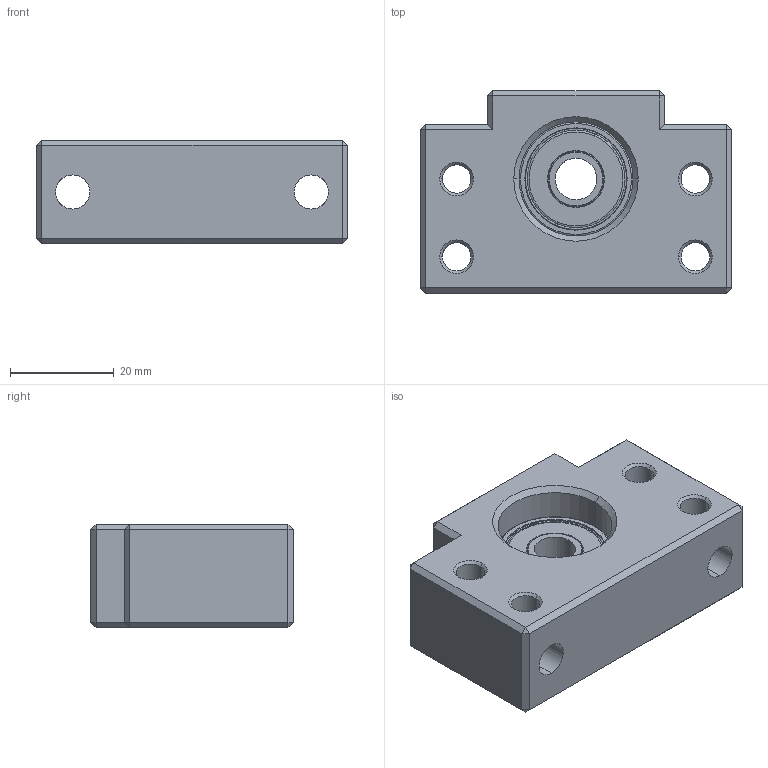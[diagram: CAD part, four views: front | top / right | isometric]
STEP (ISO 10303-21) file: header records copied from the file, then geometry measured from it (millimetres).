
FILE_DESCRIPTION (( 'STEP AP203' ), '1' );
FILE_NAME ('BF10²Õ¦X¥ó.STEP', '2017-12-27T08:14:58', ( '' ), ( '' ), 'SwSTEP 2.0', 'SolidWorks 2017', '' );
FILE_SCHEMA (( 'CONFIG_CONTROL_DESIGN' ));
Length unit declared in the file: millimetre
Products named in the file (1): BF10組合件
Bounding box: 60 x 39 x 20 mm (x, y, z)
Surface area: 11584.2 mm2 (no closed solid volume)
Topology: 0 solids, 6 shells, 146 faces, 346 edges, 204 vertices
Faces by surface type: plane 54, cylinder 40, torus 28, cone 24
Entity records: 4768 total; most frequent: CARTESIAN_POINT 1257, DIRECTION 764, ORIENTED_EDGE 672, EDGE_CURVE 346, AXIS2_PLACEMENT_3D 303, VERTEX_POINT 204, EDGE_LOOP 170, LINE 158
